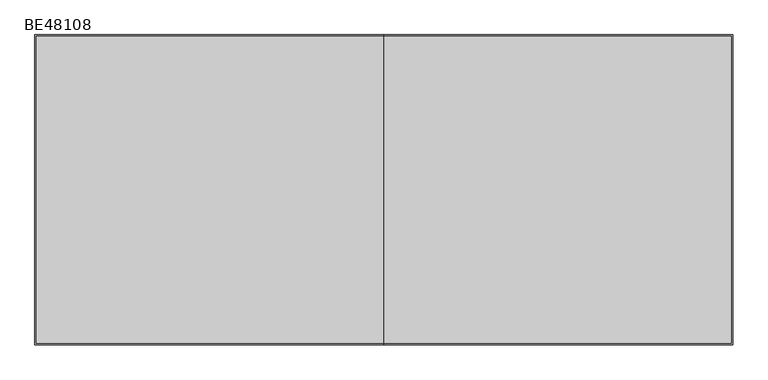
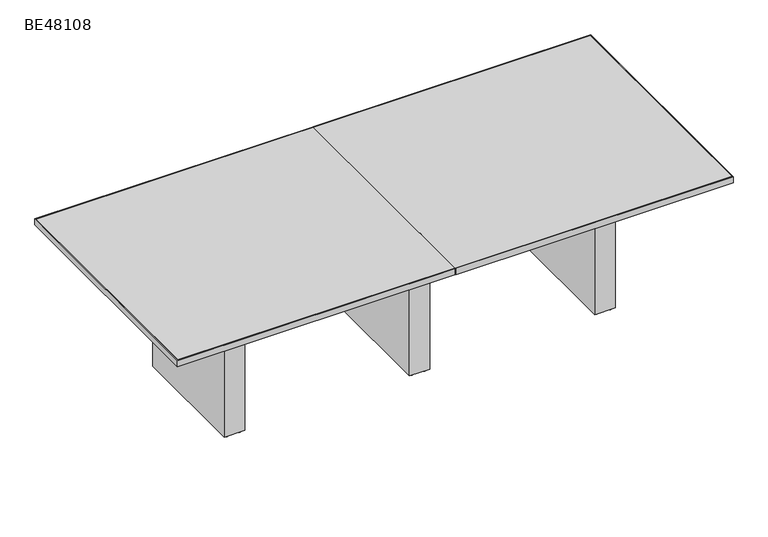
"""IFC4 building model written with IfcOpenShell, lengths in millimetres: furniture geometry, ERG-Beta-Conference_Table-Rectangle : BE48108."""

import ifcopenshell
import ifcopenshell.guid

model = None  # the IFC model being written
_history = None  # IfcOwnerHistory: only IFC2X3 demands one
_inside = {}  # id of a spatial element -> (the spatial element, [elements in it])
_under = {}  # id of a project, library or spatial element -> (it, [spatial elements below it])
_declared = {}  # id of a project -> (the project, [libraries it declares])
_typed = {}  # id of a type object -> (the type object, [elements of that type])
_made_of = {}  # id of a material, layer set ... -> (it, [elements and type objects made of it])


def new_model(schema):
    """Start an empty IFC model of exactly this schema.

    Asked for "IFC4X3", IfcOpenShell would pick the latest addendum, in which some entities
    have other attributes; the version numbers below select the first issue.
    IFC2X3 requires an IfcOwnerHistory on every rooted entity: one is made here for all.
    """
    global model, _history
    if schema == "IFC4X3":
        model = ifcopenshell.file(schema_version=(4, 3, 0, 0))
    else:
        model = ifcopenshell.file(schema=schema)
    _inside.clear()
    _under.clear()
    _declared.clear()
    _typed.clear()
    _made_of.clear()
    _history = None
    if model.schema == "IFC2X3":
        org = make("IfcOrganization", Name="unknown")
        user = make(
            "IfcPersonAndOrganization",
            ThePerson=make("IfcPerson", FamilyName="unknown"),
            TheOrganization=org,
        )
        app = make(
            "IfcApplication",
            ApplicationDeveloper=org,
            Version="unknown",
            ApplicationFullName="unknown",
            ApplicationIdentifier="unknown",
        )
        _history = make(
            "IfcOwnerHistory",
            OwningUser=user,
            OwningApplication=app,
            ChangeAction="ADDED",
            CreationDate=0,
        )
    return model


def make(cls, **values):
    """One entity of the class cls with the attributes given. An attribute that is None is left unset."""
    return model.create_entity(
        cls, **{name: value for name, value in values.items() if value is not None}
    )


def rooted(cls, **values):
    """An entity with a GlobalId (a new one), such as an element, a storey or a relation."""
    return make(cls, GlobalId=ifcopenshell.guid.new(), OwnerHistory=_history, **values)


def si_unit(unit_type, name, prefix=None):
    """IfcSIUnit, for example si_unit("LENGTHUNIT", "METRE", prefix="MILLI")."""
    return make("IfcSIUnit", UnitType=unit_type, Prefix=prefix, Name=name)


def assignment(units):
    """IfcUnitAssignment: the units of a project."""
    return None if units is None else make("IfcUnitAssignment", Units=units)


def point(xyz):
    """IfcCartesianPoint."""
    return None if xyz is None else make("IfcCartesianPoint", Coordinates=xyz)


def direction(xyz):
    """IfcDirection."""
    return None if xyz is None else make("IfcDirection", DirectionRatios=xyz)


def frame(location, z_axis=None, x_axis=None):
    """IfcAxis2Placement3D, a coordinate frame: its origin and axes. An axis left out is left unset."""
    return make(
        "IfcAxis2Placement3D",
        Location=point(location),
        Axis=direction(z_axis),
        RefDirection=direction(x_axis),
    )


def frame_2d(location, x_axis=None):
    """IfcAxis2Placement2D, a coordinate frame in the plane: its origin and x axis."""
    return make(
        "IfcAxis2Placement2D", Location=point(location), RefDirection=direction(x_axis)
    )


def origin():
    """The frame at (0, 0, 0) with its axes left unset."""
    return frame((0.0, 0.0, 0.0))


def origin_with_axes():
    """The frame at (0, 0, 0) with the z axis (0, 0, 1) and the x axis (1, 0, 0) written out."""
    return frame((0.0, 0.0, 0.0), z_axis=(0.0, 0.0, 1.0), x_axis=(1.0, 0.0, 0.0))


def place(relative_to, where):
    """IfcLocalPlacement: puts the frame where relative to a parent placement (None: the world)."""
    return make(
        "IfcLocalPlacement", PlacementRelTo=relative_to, RelativePlacement=where
    )


def context(
    kind, dimensions, precision=None, world=None, true_north=None, identifier=None
):
    """IfcGeometricRepresentationContext, for example the 3D "Model" context."""
    return make(
        "IfcGeometricRepresentationContext",
        ContextIdentifier=identifier,
        ContextType=kind,
        CoordinateSpaceDimension=dimensions,
        Precision=precision,
        WorldCoordinateSystem=world,
        TrueNorth=true_north,
    )


def project(units=None, contexts=None):
    """IfcProject with its units and contexts."""
    return rooted(
        "IfcProject",
        Name="project",
        RepresentationContexts=contexts,
        UnitsInContext=assignment(units),
    )


def spatial(cls, under=None, at=None, **own):
    """A site, building, storey or space (cls), placed at a placement, below another one or the project."""
    s = rooted(cls, ObjectPlacement=at, **own)
    if under is not None:
        _under.setdefault(under.id(), (under, []))[1].append(s)
    return s


def polyline(points):
    """IfcPolyline through the points."""
    return make("IfcPolyline", Points=[point(p) for p in points])


def circle_curve(where, radius):
    """IfcCircle in the frame where."""
    return make("IfcCircle", Position=where, Radius=radius)


def trimmed(basis, trim1, trim2, sense, master):
    """IfcTrimmedCurve: the piece of a basis curve between two trims."""
    return make(
        "IfcTrimmedCurve",
        BasisCurve=basis,
        Trim1=trim1,
        Trim2=trim2,
        SenseAgreement=sense,
        MasterRepresentation=master,
    )


def segment(curve, same_sense, transition):
    """IfcCompositeCurveSegment."""
    return make(
        "IfcCompositeCurveSegment",
        Transition=transition,
        SameSense=same_sense,
        ParentCurve=curve,
    )


def composite_curve(segments, self_intersect=None):
    """IfcCompositeCurve: segments joined end to end."""
    return make("IfcCompositeCurve", Segments=segments, SelfIntersect=self_intersect)


def outline(outer, holes=None, kind="AREA"):
    """IfcArbitraryClosedProfileDef: a profile drawn as a closed curve; with holes, ...WithVoids."""
    if holes is None:
        return make("IfcArbitraryClosedProfileDef", ProfileType=kind, OuterCurve=outer)
    return make(
        "IfcArbitraryProfileDefWithVoids",
        ProfileType=kind,
        OuterCurve=outer,
        InnerCurves=holes,
    )


def extrude(swept, where, along, depth):
    """IfcExtrudedAreaSolid: the profile swept, set in the frame where, extruded along a direction by depth."""
    return make(
        "IfcExtrudedAreaSolid",
        SweptArea=swept,
        Position=where,
        ExtrudedDirection=direction(along),
        Depth=depth,
    )


def shape(context_of_items, identifier, shape_type, items):
    """IfcShapeRepresentation: the items that make up one representation, for example the "Body"."""
    return make(
        "IfcShapeRepresentation",
        ContextOfItems=context_of_items,
        RepresentationIdentifier=identifier,
        RepresentationType=shape_type,
        Items=items,
    )


def source(mapping_origin, context_of_items, identifier, shape_type, items):
    """IfcRepresentationMap: a shape defined once, which mapped items show again and again."""
    return make(
        "IfcRepresentationMap",
        MappingOrigin=mapping_origin,
        MappedRepresentation=shape(context_of_items, identifier, shape_type, items),
    )


def transform(
    local_origin,
    x_axis=None,
    y_axis=None,
    z_axis=None,
    scale=None,
    scale2=None,
    scale3=None,
    uniform=True,
):
    """IfcCartesianTransformationOperator3D, or its non-uniform kind. x_axis, y_axis, z_axis: its Axis1, 2, 3."""
    if uniform:
        return make(
            "IfcCartesianTransformationOperator3D",
            Axis1=direction(x_axis),
            Axis2=direction(y_axis),
            LocalOrigin=point(local_origin),
            Scale=scale,
            Axis3=direction(z_axis),
        )
    return make(
        "IfcCartesianTransformationOperator3DnonUniform",
        Axis1=direction(x_axis),
        Axis2=direction(y_axis),
        LocalOrigin=point(local_origin),
        Scale=scale,
        Axis3=direction(z_axis),
        Scale2=scale2,
        Scale3=scale3,
    )


def mapped(mapping_source, mapping_target):
    """IfcMappedItem: shows the shape of a source again, moved by a transform."""
    return make(
        "IfcMappedItem", MappingSource=mapping_source, MappingTarget=mapping_target
    )


def made_of(thing, what):
    """Note that an element or type object is made of a material, layer set ...; save() writes the relation."""
    if what is not None:
        _made_of.setdefault(what.id(), (what, []))[1].append(thing)
    return thing


def element(
    cls,
    number,
    at=None,
    inside=None,
    cuts=None,
    type_object=None,
    material=None,
    context=None,
    identifier="Body",
    shape_type=None,
    held_by="IfcProductDefinitionShape",
    body=None,
    shapes=None,
    **own,
):
    """One element of the class cls, such as IfcWall. Its Tag is "e" and its number.

    at: its placement. inside: the storey or other place that contains it. cuts: it is an
    opening in that element (IfcRelVoidsElement). A single representation is given by context,
    identifier, shape_type and body (its items); several are given by shapes. held_by: the class
    of the entity that holds the representations. save() writes the other relations.
    """
    e = rooted(cls, Tag="e%d" % number, ObjectPlacement=at, **own)
    if body is not None:
        shapes = [shape(context, identifier, shape_type, body)]
    if shapes is not None:
        e.Representation = make(held_by, Representations=shapes)
    if inside is not None:
        _inside.setdefault(inside.id(), (inside, []))[1].append(e)
    if cuts is not None:
        rooted(
            "IfcRelVoidsElement", RelatingBuildingElement=cuts, RelatedOpeningElement=e
        )
    if type_object is not None:
        _typed.setdefault(type_object.id(), (type_object, []))[1].append(e)
    return made_of(e, material)


def aggregate(whole, parts):
    """IfcRelAggregates: a whole, such as a stair, and the parts it consists of."""
    return rooted("IfcRelAggregates", RelatingObject=whole, RelatedObjects=parts)


def save(model, path):
    """Write the relations noted so far, then the file.

    IfcRelAggregates (storeys below a building ...), IfcRelContainedInSpatialStructure (elements
    in a storey), IfcRelDefinesByType, IfcRelAssociatesMaterial and IfcRelDeclares: one each for
    every whole, place, type object, material and project.
    """
    for whole, parts in _under.values():
        aggregate(whole, parts)
    for where, things in _inside.values():
        rooted(
            "IfcRelContainedInSpatialStructure",
            RelatedElements=things,
            RelatingStructure=where,
        )
    for kind, things in _typed.values():
        rooted("IfcRelDefinesByType", RelatedObjects=things, RelatingType=kind)
    for what, things in _made_of.values():
        rooted("IfcRelAssociatesMaterial", RelatedObjects=things, RelatingMaterial=what)
    for by, libraries in _declared.values():
        rooted("IfcRelDeclares", RelatingContext=by, RelatedDefinitions=libraries)
    model.write(path)


def be48108_1ee79d1c(model_context):
    return source(origin(), model_context, "Body", "SweptSolid", [
        extrude(outline(composite_curve([segment(trimmed(circle_curve(frame_2d((511.175, 339.476527)), 9.525), [point((501.65, 339.476527))], [point((520.7, 339.476527))], False, "CARTESIAN"), True, "CONTINUOUS"), segment(trimmed(circle_curve(frame_2d((511.175, 339.476527)), 9.525), [point((520.7, 339.476527))], [point((501.65, 339.476527))], False, "CARTESIAN"), True, "CONTINUOUS")], self_intersect=False)), origin_with_axes(), (0.0, 0.0, 1.0), 9.525),
        extrude(outline(composite_curve([segment(trimmed(circle_curve(frame_2d((574.675, 339.476527)), 9.525), [point((565.15, 339.476527))], [point((584.2, 339.476527))], False, "CARTESIAN"), True, "CONTINUOUS"), segment(trimmed(circle_curve(frame_2d((574.675, 339.476527)), 9.525), [point((584.2, 339.476527))], [point((565.15, 339.476527))], False, "CARTESIAN"), True, "CONTINUOUS")], self_intersect=False)), origin_with_axes(), (0.0, 0.0, 1.0), 9.525),
        extrude(outline(composite_curve([segment(trimmed(circle_curve(frame_2d((511.175, -232.023473)), 9.525), [point((501.65, -232.023473))], [point((520.7, -232.023473))], False, "CARTESIAN"), True, "CONTINUOUS"), segment(trimmed(circle_curve(frame_2d((511.175, -232.023473)), 9.525), [point((520.7, -232.023473))], [point((501.65, -232.023473))], False, "CARTESIAN"), True, "CONTINUOUS")], self_intersect=False)), origin_with_axes(), (0.0, 0.0, 1.0), 9.525),
        extrude(outline(composite_curve([segment(trimmed(circle_curve(frame_2d((574.675, -232.023473)), 9.525), [point((565.15, -232.023473))], [point((584.2, -232.023473))], False, "CARTESIAN"), True, "CONTINUOUS"), segment(trimmed(circle_curve(frame_2d((574.675, -232.023473)), 9.525), [point((584.2, -232.023473))], [point((565.15, -232.023473))], False, "CARTESIAN"), True, "CONTINUOUS")], self_intersect=False)), origin_with_axes(), (0.0, 0.0, 1.0), 9.525),
        extrude(outline(polyline([(593.725, 358.526527), (593.725, -251.073473), (492.125, -251.073473), (492.125, 358.526527), (593.725, 358.526527)])), frame((0.0, 0.0, 9.525), z_axis=(0.0, 0.0, 1.0), x_axis=(1.0, 0.0, 0.0)), (0.0, 0.0, 1.0), 695.3249758),
        extrude(outline(composite_curve([segment(trimmed(circle_curve(frame_2d((1425.575, 339.476527)), 9.525), [point((1416.05, 339.476527))], [point((1435.1, 339.476527))], False, "CARTESIAN"), True, "CONTINUOUS"), segment(trimmed(circle_curve(frame_2d((1425.575, 339.476527)), 9.525), [point((1435.1, 339.476527))], [point((1416.05, 339.476527))], False, "CARTESIAN"), True, "CONTINUOUS")], self_intersect=False)), origin_with_axes(), (0.0, 0.0, 1.0), 9.525),
        extrude(outline(composite_curve([segment(trimmed(circle_curve(frame_2d((1489.075, 339.476527)), 9.525), [point((1479.55, 339.476527))], [point((1498.6, 339.476527))], False, "CARTESIAN"), True, "CONTINUOUS"), segment(trimmed(circle_curve(frame_2d((1489.075, 339.476527)), 9.525), [point((1498.6, 339.476527))], [point((1479.55, 339.476527))], False, "CARTESIAN"), True, "CONTINUOUS")], self_intersect=False)), origin_with_axes(), (0.0, 0.0, 1.0), 9.525),
        extrude(outline(composite_curve([segment(trimmed(circle_curve(frame_2d((1425.575, -232.023473)), 9.525), [point((1416.05, -232.023473))], [point((1435.1, -232.023473))], False, "CARTESIAN"), True, "CONTINUOUS"), segment(trimmed(circle_curve(frame_2d((1425.575, -232.023473)), 9.525), [point((1435.1, -232.023473))], [point((1416.05, -232.023473))], False, "CARTESIAN"), True, "CONTINUOUS")], self_intersect=False)), origin_with_axes(), (0.0, 0.0, 1.0), 9.525),
        extrude(outline(composite_curve([segment(trimmed(circle_curve(frame_2d((1489.075, -232.023473)), 9.525), [point((1479.55, -232.023473))], [point((1498.6, -232.023473))], False, "CARTESIAN"), True, "CONTINUOUS"), segment(trimmed(circle_curve(frame_2d((1489.075, -232.023473)), 9.525), [point((1498.6, -232.023473))], [point((1479.55, -232.023473))], False, "CARTESIAN"), True, "CONTINUOUS")], self_intersect=False)), origin_with_axes(), (0.0, 0.0, 1.0), 9.525),
        extrude(outline(polyline([(1508.125, 358.526527), (1508.125, -251.073473), (1406.525, -251.073473), (1406.525, 358.526527), (1508.125, 358.526527)])), frame((0.0, 0.0, 9.525), z_axis=(0.0, 0.0, 1.0), x_axis=(1.0, 0.0, 0.0)), (0.0, 0.0, 1.0), 695.3249758),
        extrude(outline(composite_curve([segment(trimmed(circle_curve(frame_2d((-403.225, 339.476527)), 9.525), [point((-412.75, 339.476527))], [point((-393.7, 339.476527))], False, "CARTESIAN"), True, "CONTINUOUS"), segment(trimmed(circle_curve(frame_2d((-403.225, 339.476527)), 9.525), [point((-393.7, 339.476527))], [point((-412.75, 339.476527))], False, "CARTESIAN"), True, "CONTINUOUS")], self_intersect=False)), origin_with_axes(), (0.0, 0.0, 1.0), 9.525),
        extrude(outline(composite_curve([segment(trimmed(circle_curve(frame_2d((-339.725, 339.476527)), 9.525), [point((-349.25, 339.476527))], [point((-330.2, 339.476527))], False, "CARTESIAN"), True, "CONTINUOUS"), segment(trimmed(circle_curve(frame_2d((-339.725, 339.476527)), 9.525), [point((-330.2, 339.476527))], [point((-349.25, 339.476527))], False, "CARTESIAN"), True, "CONTINUOUS")], self_intersect=False)), origin_with_axes(), (0.0, 0.0, 1.0), 9.525),
        extrude(outline(composite_curve([segment(trimmed(circle_curve(frame_2d((-403.225, -232.023473)), 9.525), [point((-412.75, -232.023473))], [point((-393.7, -232.023473))], False, "CARTESIAN"), True, "CONTINUOUS"), segment(trimmed(circle_curve(frame_2d((-403.225, -232.023473)), 9.525), [point((-393.7, -232.023473))], [point((-412.75, -232.023473))], False, "CARTESIAN"), True, "CONTINUOUS")], self_intersect=False)), origin_with_axes(), (0.0, 0.0, 1.0), 9.525),
        extrude(outline(composite_curve([segment(trimmed(circle_curve(frame_2d((-339.725, -232.023473)), 9.525), [point((-349.25, -232.023473))], [point((-330.2, -232.023473))], False, "CARTESIAN"), True, "CONTINUOUS"), segment(trimmed(circle_curve(frame_2d((-339.725, -232.023473)), 9.525), [point((-330.2, -232.023473))], [point((-349.25, -232.023473))], False, "CARTESIAN"), True, "CONTINUOUS")], self_intersect=False)), origin_with_axes(), (0.0, 0.0, 1.0), 9.525),
        extrude(outline(polyline([(-320.675, 358.526527), (-320.675, -251.073473), (-422.275, -251.073473), (-422.275, 358.526527), (-320.675, 358.526527)])), frame((0.0, 0.0, 9.525), z_axis=(0.0, 0.0, 1.0), x_axis=(1.0, 0.0, 0.0)), (0.0, 0.0, 1.0), 695.3249758),
        extrude(outline(polyline([(1914.525, 663.326527), (1914.525, -555.873473), (544.5125, -555.873473), (544.5125, -552.698473), (1911.35, -552.698473), (1911.35, 660.151527), (544.5125, 660.151527), (544.5125, 663.326527), (1914.525, 663.326527)])), frame((0.0, 0.0, 704.85), z_axis=(0.0, 0.0, 1.0), x_axis=(1.0, 0.0, 0.0)), (0.0, 0.0, 1.0), 31.75),
        extrude(outline(polyline([(-828.675, -555.873473), (-828.675, 663.326527), (541.3375, 663.326527), (541.3375, 660.151527), (-825.5, 660.151527), (-825.5, -552.698473), (541.3375, -552.698473), (541.3375, -555.873473), (-828.675, -555.873473)])), frame((0.0, 0.0, 704.85), z_axis=(0.0, 0.0, 1.0), x_axis=(1.0, 0.0, 0.0)), (0.0, 0.0, 1.0), 31.75),
        extrude(outline(polyline([(1911.35, 660.151527), (1911.35, -552.698473), (544.5125, -552.698473), (544.5125, 660.151527), (1911.35, 660.151527)])), frame((0.0, 0.0, 704.85), z_axis=(0.0, 0.0, 1.0), x_axis=(1.0, 0.0, 0.0)), (0.0, 0.0, 1.0), 31.75),
        extrude(outline(polyline([(-825.5, -552.698473), (-825.5, 660.151527), (541.3375, 660.151527), (541.3375, -552.698473), (-825.5, -552.698473)])), frame((0.0, 0.0, 704.85), z_axis=(0.0, 0.0, 1.0), x_axis=(1.0, 0.0, 0.0)), (0.0, 0.0, 1.0), 31.75),
    ])


if __name__ == "__main__":
    model = new_model("IFC4")
    model_context = context("Model", 3, world=origin())
    ifc_project = project(units=[si_unit("LENGTHUNIT", "METRE", prefix="MILLI")], contexts=[model_context])
    site = spatial("IfcSite", under=ifc_project)
    building = spatial("IfcBuilding", under=site)
    placement = place(None, origin())
    be48108_shape = be48108_1ee79d1c(model_context)
    element("IfcFurniture", 1, ObjectType="ERG-Beta-Conference_Table-Rectangle : BE48108", at=placement, inside=building, context=model_context, shape_type="MappedRepresentation", body=[
        mapped(be48108_shape, transform((0.0, 0.0, 0.0), x_axis=(1.0, 0.0, 0.0), y_axis=(0.0, 1.0, 0.0), z_axis=(0.0, 0.0, 1.0))),
    ])
    save(model, "model.ifc")
